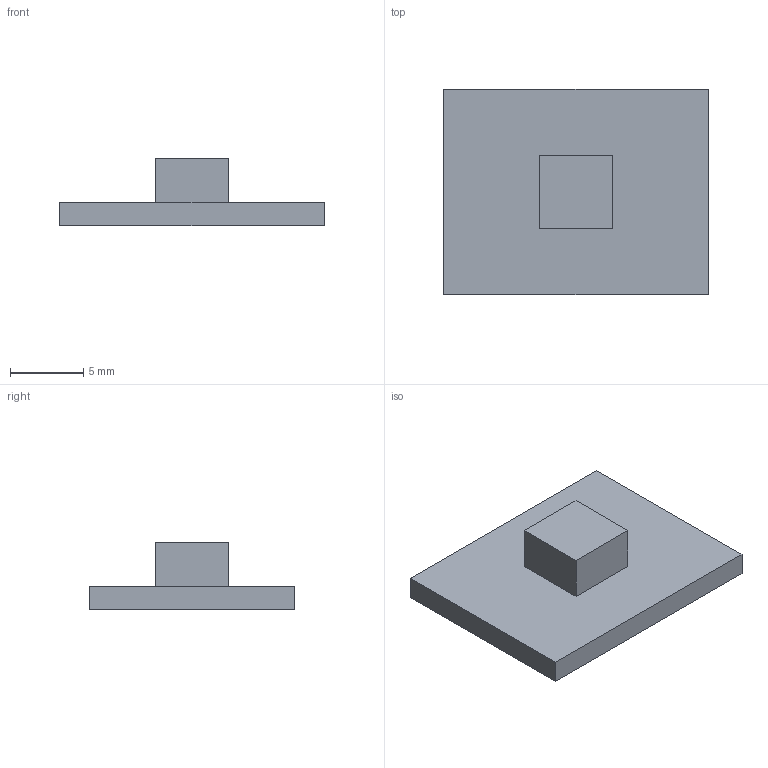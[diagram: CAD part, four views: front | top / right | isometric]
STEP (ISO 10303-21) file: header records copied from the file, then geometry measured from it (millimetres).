
FILE_DESCRIPTION(('Open CASCADE Model'),'2;1');
FILE_NAME('Open CASCADE Shape Model','2026-08-07T13:51:21',('Author'),( 'Open CASCADE'),'Open CASCADE STEP processor 7.9','Open CASCADE 7.9' ,'Unknown');
FILE_SCHEMA(('AUTOMOTIVE_DESIGN { 1 0 10303 214 1 1 1 1 }'));
Length unit declared in the file: millimetre
Products named in the file (1): SHT31模組(外購)
Bounding box: 18 x 14 x 4.6 mm (x, y, z)
Volume: 478.2 mm3; surface area: 666.4 mm2
Topology: 1 solids, 1 shells, 11 faces, 24 edges, 16 vertices
Faces by surface type: plane 11
Entity records: 620 total; most frequent: CARTESIAN_POINT 100, DIRECTION 96, LINE 72, VECTOR 72, ORIENTED_EDGE 48, PCURVE 48, DEFINITIONAL_REPRESENTATION 48, EDGE_CURVE 24
